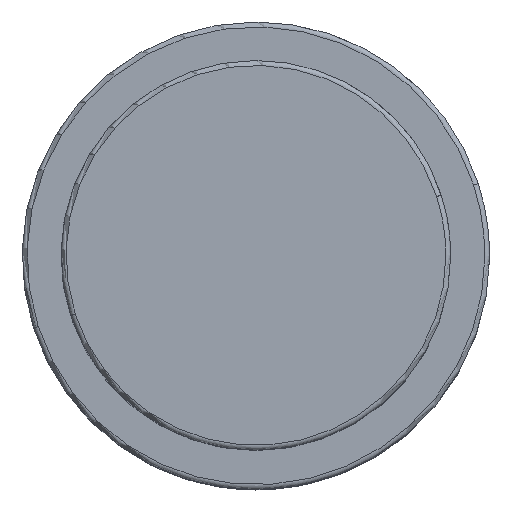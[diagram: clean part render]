
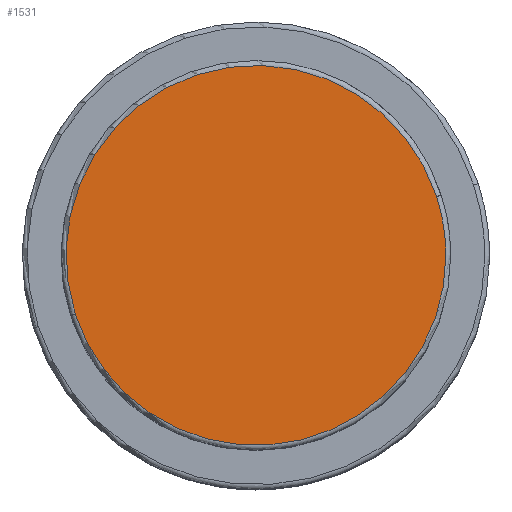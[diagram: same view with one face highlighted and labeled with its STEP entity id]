
A CAD part, top view. The second image highlights one B-rep face of the part: STEP entity #1531.
In plain terms, the highlighted planar face has unit normal (0, 0, 1).
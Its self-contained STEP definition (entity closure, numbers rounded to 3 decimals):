
#1497=CARTESIAN_POINT('',(19.5,0.0,38.5));
#1498=VERTEX_POINT('',#1497);
#1499=CARTESIAN_POINT('',(18.546,6.026,38.5));
#1500=VERTEX_POINT('',#1499);
#1501=CARTESIAN_POINT('',(0.0,0.0,38.5));
#1502=DIRECTION('',(0.0,0.0,1.0));
#1503=DIRECTION('',(1.0,0.0,0.0));
#1504=AXIS2_PLACEMENT_3D('',#1501,#1502,#1503);
#1505=CIRCLE('',#1504,19.5);
#1506=EDGE_CURVE('no 1764',#1498,#1500,#1505,.T.);
#1507=ORIENTED_EDGE('',*,*,#1506,.T.);
#1508=CARTESIAN_POINT('',(-18.546,-6.026,38.5));
#1509=VERTEX_POINT('',#1508);
#1510=CARTESIAN_POINT('',(0.0,0.0,38.5));
#1511=DIRECTION('',(0.0,0.0,1.0));
#1512=DIRECTION('',(1.0,0.0,0.0));
#1513=AXIS2_PLACEMENT_3D('',#1510,#1511,#1512);
#1514=CIRCLE('',#1513,19.5);
#1515=EDGE_CURVE('no 1770',#1500,#1509,#1514,.T.);
#1516=ORIENTED_EDGE('',*,*,#1515,.T.);
#1517=CARTESIAN_POINT('',(0.0,0.0,38.5));
#1518=DIRECTION('',(0.0,0.0,1.0));
#1519=DIRECTION('',(1.0,0.0,0.0));
#1520=AXIS2_PLACEMENT_3D('',#1517,#1518,#1519);
#1521=CIRCLE('',#1520,19.5);
#1522=EDGE_CURVE('no 1774',#1509,#1498,#1521,.T.);
#1523=ORIENTED_EDGE('',*,*,#1522,.T.);
#1524=EDGE_LOOP('',(#1507,#1516,#1523));
#1525=FACE_OUTER_BOUND('',#1524,.T.);
#1526=CARTESIAN_POINT('',(0.0,0.0,38.5));
#1527=DIRECTION('',(0.0,0.0,1.0));
#1528=DIRECTION('',(1.0,0.0,0.0));
#1529=AXIS2_PLACEMENT_3D('',#1526,#1527,#1528);
#1530=PLANE('',#1529);
#1531=ADVANCED_FACE('no 1755',(#1525),#1530,.T.);
